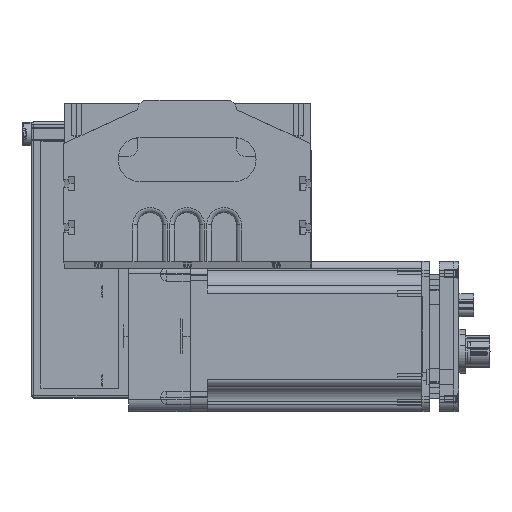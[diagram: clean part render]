
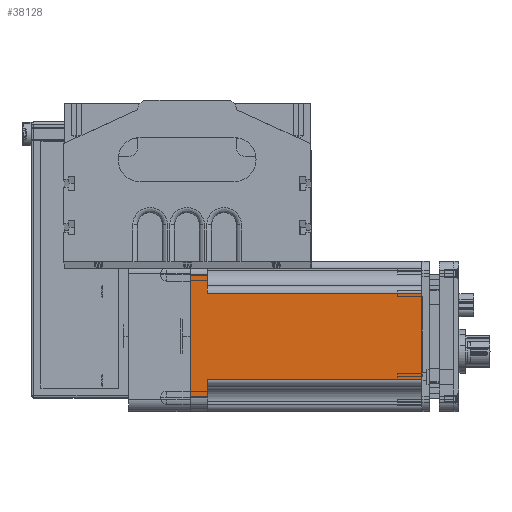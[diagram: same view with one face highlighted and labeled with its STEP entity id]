
A CAD part, top view. The second image highlights one B-rep face of the part: STEP entity #38128.
In plain terms, the highlighted planar face has unit normal (0, 0, 1).
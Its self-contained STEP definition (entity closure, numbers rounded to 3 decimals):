
#27994 = ORIENTED_EDGE ( 'NONE', *, *, #29805, .F. ) ;
#28016 = EDGE_CURVE ( 'NONE', #38083, #29759, #30431, .T. ) ;
#29455 = LINE ( 'NONE', #31772, #31756 ) ;
#29759 = VERTEX_POINT ( 'NONE', #30608 ) ;
#29763 = VERTEX_POINT ( 'NONE', #30601 ) ;
#29765 = ORIENTED_EDGE ( 'NONE', *, *, #29858, .F. ) ;
#29805 = EDGE_CURVE ( 'NONE', #29759, #35502, #30593, .T. ) ;
#29858 = EDGE_CURVE ( 'NONE', #35502, #29763, #30609, .T. ) ;
#29966 = ORIENTED_EDGE ( 'NONE', *, *, #40957, .F. ) ;
#30427 = DIRECTION ( 'NONE',  ( 0., -1., 0. ) ) ;
#30428 = VECTOR ( 'NONE', #30427, 1000. ) ;
#30430 = CARTESIAN_POINT ( 'NONE',  ( 17.5, 95.35, 30.5 ) ) ;
#30431 = LINE ( 'NONE', #30430, #30428 ) ;
#30593 = LINE ( 'NONE', #30652, #30651 ) ;
#30601 = CARTESIAN_POINT ( 'NONE',  ( 24.5, 0., 30.5 ) ) ;
#30608 = CARTESIAN_POINT ( 'NONE',  ( 17.5, 7., 30.5 ) ) ;
#30609 = LINE ( 'NONE', #30629, #30628 ) ;
#30627 = DIRECTION ( 'NONE',  ( 0., -1., 0. ) ) ;
#30628 = VECTOR ( 'NONE', #30627, 1000. ) ;
#30629 = CARTESIAN_POINT ( 'NONE',  ( 24.5, 7., 30.5 ) ) ;
#30650 = DIRECTION ( 'NONE',  ( 1., 0., 0. ) ) ;
#30651 = VECTOR ( 'NONE', #30650, 1000. ) ;
#30652 = CARTESIAN_POINT ( 'NONE',  ( -24.5, 7., 30.5 ) ) ;
#30783 = DIRECTION ( 'NONE',  ( 1., 0., 0. ) ) ;
#30784 = VECTOR ( 'NONE', #30783, 1000. ) ;
#30785 = CARTESIAN_POINT ( 'NONE',  ( 26.5, 94., 30.5 ) ) ;
#30786 = LINE ( 'NONE', #30785, #30784 ) ;
#30981 = VECTOR ( 'NONE', #30987, 1000. ) ;
#30987 = DIRECTION ( 'NONE',  ( 1., 0., 0. ) ) ;
#30988 = CARTESIAN_POINT ( 'NONE',  ( -24.5, 0., 30.5 ) ) ;
#30989 = LINE ( 'NONE', #30988, #30981 ) ;
#31024 = DIRECTION ( 'NONE',  ( 0., 1., 0. ) ) ;
#31025 = VECTOR ( 'NONE', #31024, 1000. ) ;
#31026 = CARTESIAN_POINT ( 'NONE',  ( -17.5, 7., 30.5 ) ) ;
#31027 = LINE ( 'NONE', #31026, #31025 ) ;
#31075 = ORIENTED_EDGE ( 'NONE', *, *, #31519, .F. ) ;
#31152 = CARTESIAN_POINT ( 'NONE',  ( -17.5, 94., 30.5 ) ) ;
#31304 = CARTESIAN_POINT ( 'NONE',  ( 24.5, 7., 30.5 ) ) ;
#31519 = EDGE_CURVE ( 'NONE', #34271, #38083, #30786, .T. ) ;
#31557 = PLANE ( 'NONE',  #31601 ) ;
#31572 = CARTESIAN_POINT ( 'NONE',  ( 17.5, 94., 30.5 ) ) ;
#31593 = DIRECTION ( 'NONE',  ( -1., 0., 0. ) ) ;
#31594 = DIRECTION ( 'NONE',  ( 0., 0., -1. ) ) ;
#31595 = CARTESIAN_POINT ( 'NONE',  ( -24.5, 7., 30.5 ) ) ;
#31599 = FACE_OUTER_BOUND ( 'NONE', #36855, .T. ) ;
#31601 = AXIS2_PLACEMENT_3D ( 'NONE', #31595, #31594, #31593 ) ;
#31756 = VECTOR ( 'NONE', #31768, 1000. ) ;
#31768 = DIRECTION ( 'NONE',  ( 1., 0., 0. ) ) ;
#31772 = CARTESIAN_POINT ( 'NONE',  ( -24.5, 7., 30.5 ) ) ;
#32003 = CARTESIAN_POINT ( 'NONE',  ( -17.5, 7., 30.5 ) ) ;
#32087 = CARTESIAN_POINT ( 'NONE',  ( -24.5, 7., 30.5 ) ) ;
#32898 = EDGE_CURVE ( 'NONE', #42658, #29763, #30989, .T. ) ;
#33007 = DIRECTION ( 'NONE',  ( 0., 1., 0. ) ) ;
#33008 = VECTOR ( 'NONE', #33007, 1000. ) ;
#33009 = CARTESIAN_POINT ( 'NONE',  ( -24.5, 7., 30.5 ) ) ;
#33010 = LINE ( 'NONE', #33009, #33008 ) ;
#33062 = EDGE_CURVE ( 'NONE', #38346, #34271, #31027, .T. ) ;
#33108 = CARTESIAN_POINT ( 'NONE',  ( -24.5, 0., 30.5 ) ) ;
#34271 = VERTEX_POINT ( 'NONE', #31152 ) ;
#35502 = VERTEX_POINT ( 'NONE', #31304 ) ;
#36855 = EDGE_LOOP ( 'NONE', ( #38139, #38129, #29966, #38138, #29765, #27994, #38115, #31075 ) ) ;
#38083 = VERTEX_POINT ( 'NONE', #31572 ) ;
#38115 = ORIENTED_EDGE ( 'NONE', *, *, #28016, .F. ) ;
#38128 = ADVANCED_FACE ( 'NONE', ( #31599 ), #31557, .F. ) ;
#38129 = ORIENTED_EDGE ( 'NONE', *, *, #38373, .F. ) ;
#38138 = ORIENTED_EDGE ( 'NONE', *, *, #32898, .T. ) ;
#38139 = ORIENTED_EDGE ( 'NONE', *, *, #33062, .F. ) ;
#38346 = VERTEX_POINT ( 'NONE', #32003 ) ;
#38373 = EDGE_CURVE ( 'NONE', #38378, #38346, #29455, .T. ) ;
#38378 = VERTEX_POINT ( 'NONE', #32087 ) ;
#40957 = EDGE_CURVE ( 'NONE', #42658, #38378, #33010, .T. ) ;
#42658 = VERTEX_POINT ( 'NONE', #33108 ) ;
